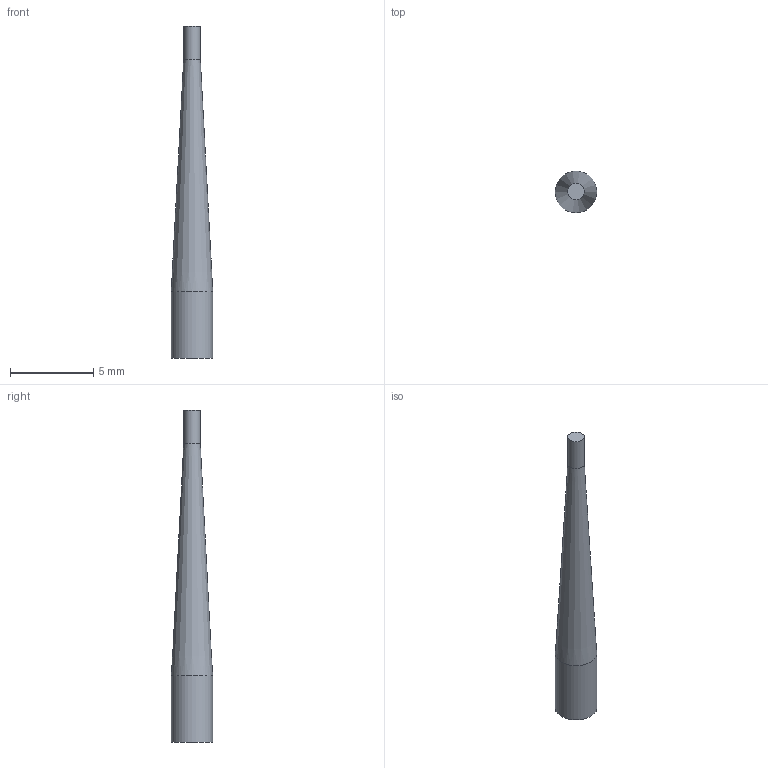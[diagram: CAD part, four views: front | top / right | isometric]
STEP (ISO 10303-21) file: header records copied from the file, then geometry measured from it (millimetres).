
FILE_DESCRIPTION(('Open CASCADE Model'),'2;1');
FILE_NAME('Open CASCADE Shape Model','2026-10-28T05:14:49',('Author'),( 'Open CASCADE'),'Open CASCADE STEP processor 7.8','Open CASCADE 7.8' ,'Unknown');
FILE_SCHEMA(('AUTOMOTIVE_DESIGN { 1 0 10303 214 1 1 1 1 }'));
Length unit declared in the file: millimetre
Products named in the file (1): Open CASCADE STEP translator 7.8 6
Bounding box: 2.5 x 2.5 x 20 mm (x, y, z)
Volume: 56.9 mm3; surface area: 120.5 mm2
Topology: 1 solids, 1 shells, 5 faces, 7 edges, 4 vertices
Faces by surface type: plane 2, cylinder 2, cone 1
Full cylindrical faces by diameter (mm): 1 x1, 2.5 x1
Entity records: 210 total; most frequent: DIRECTION 37, CARTESIAN_POINT 31, LINE 15, VECTOR 15, ORIENTED_EDGE 14, PCURVE 14, DEFINITIONAL_REPRESENTATION 14, AXIS2_PLACEMENT_3D 10
